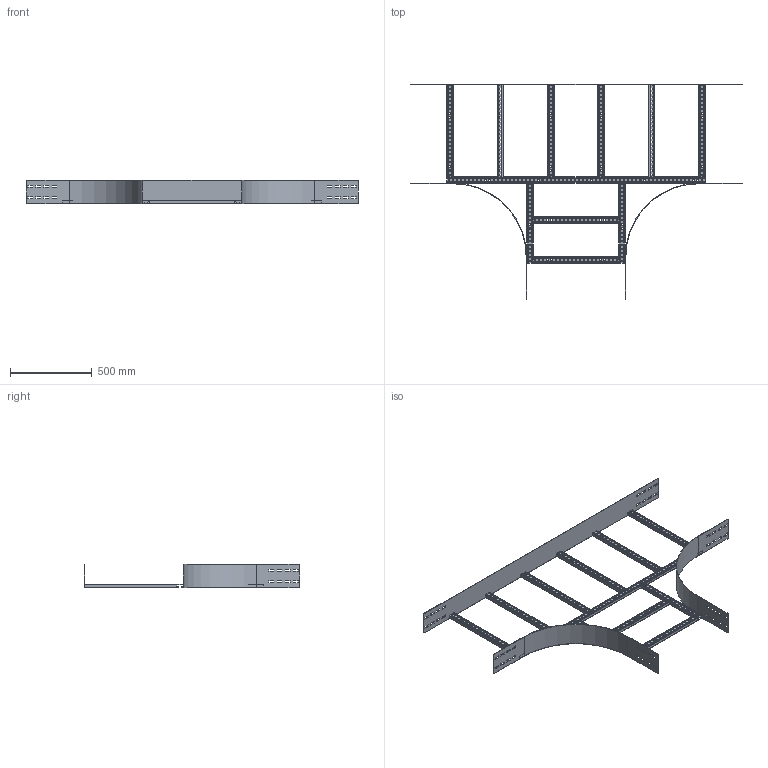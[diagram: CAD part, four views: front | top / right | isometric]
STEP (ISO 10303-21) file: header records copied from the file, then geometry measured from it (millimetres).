
FILE_DESCRIPTION(('Creo Elements/Direct Modeling STEP Export'),'2;1');
FILE_NAME('WPTP15-60-45.stp','2016-06-03T 8:39:00',(''),(''),'PTC Creo Elements/Direct Modeling STEP processor for AP214 (Solid Model)','PTC Creo Elements/Direct Modeling 19.0C 15-Aug-2015 (C) Parametric Technology GmbH','');
FILE_SCHEMA(('AUTOMOTIVE_DESIGN { 1 0 10303 214 1 1 1 1 }'));
Length unit declared in the file: millimetre
Products named in the file (7): WPBI_150.1; WPKS60; WPKSP1-60; WPKSP2_300.1; WPTPS60; WPAAG_150-60; WPTP15-60-45
Assembly tree (14 placements, depth 2):
  WPTP15-60-45
    WPKS60  x2
    WPTPS60  x6
    WPBI_150.1  x2
    WPAAG_150-60
    WPKSP2_300.1  x2
    WPKSP1-60
Bounding box: 2035 x 1323 x 145 mm (x, y, z)
Volume: 2947173.4 mm3; surface area: 2740593.2 mm2
Topology: 14 solids, 14 shells, 1810 faces, 5346 edges, 3564 vertices
Faces by surface type: plane 1036, cylinder 774
Entity records: 28462 total; most frequent: CARTESIAN_POINT 4894, ORIENTED_EDGE 4884, DIRECTION 4764, EDGE_CURVE 2442, VECTOR 1768, LINE 1768, VERTEX_POINT 1628, AXIS2_PLACEMENT_3D 1498
